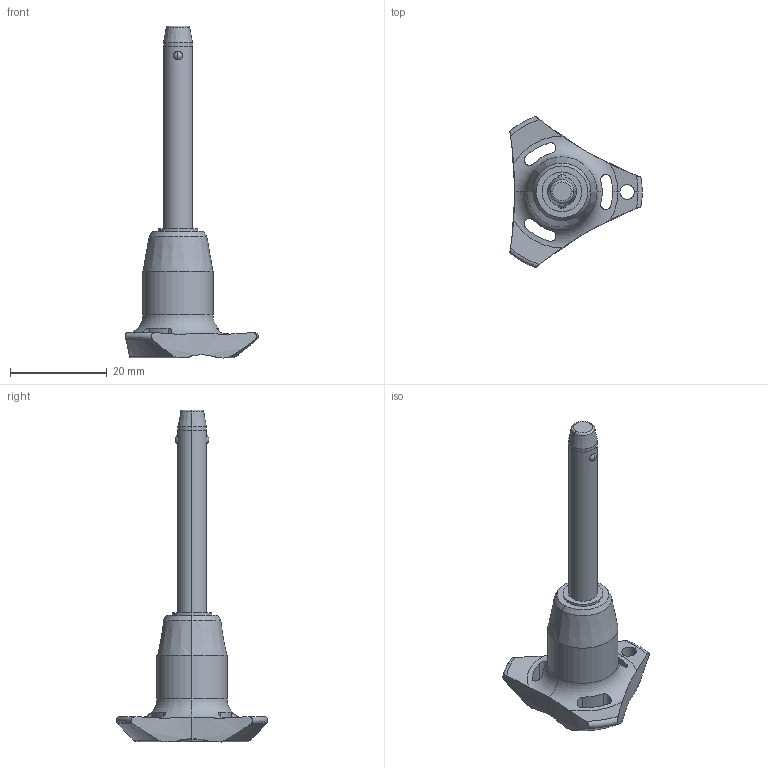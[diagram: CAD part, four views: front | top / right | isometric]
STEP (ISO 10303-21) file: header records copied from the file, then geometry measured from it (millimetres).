
FILE_DESCRIPTION (( 'STEP AP203' ), '1' );
FILE_NAME ('QR1716.M06-035-T.step', '2025-11-13T10:27:47', ( '' ), ( '' ), 'SwSTEP 2.0', 'SolidWorks 2019', '' );
FILE_SCHEMA (( 'CONFIG_CONTROL_DESIGN' ));
Length unit declared in the file: millimetre
Products named in the file (1): QR1716.M06-035-T
Bounding box: 27.4 x 31.31 x 68.7 mm (x, y, z)
Volume: 5955.5 mm3; surface area: 3212.7 mm2
Topology: 1 solids, 1 shells, 69 faces, 187 edges, 119 vertices
Faces by surface type: cylinder 32, cone 14, torus 12, sphere 6, plane 5
Entity records: 2789 total; most frequent: CARTESIAN_POINT 1010, ORIENTED_EDGE 374, DIRECTION 348, EDGE_CURVE 187, AXIS2_PLACEMENT_3D 155, VERTEX_POINT 119, CIRCLE 85, EDGE_LOOP 76
